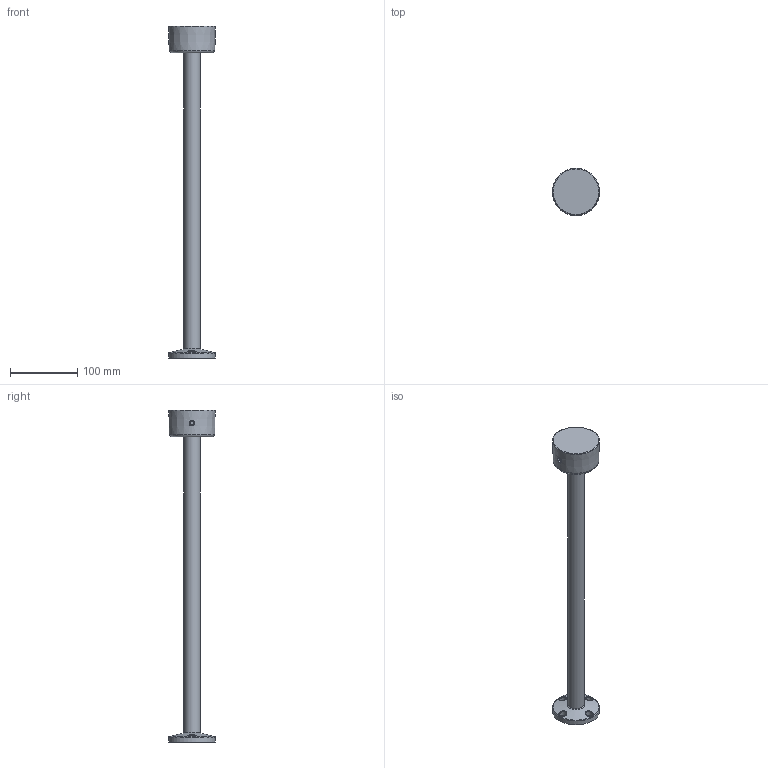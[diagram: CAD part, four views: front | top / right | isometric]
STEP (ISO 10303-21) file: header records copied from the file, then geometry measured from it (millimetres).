
FILE_DESCRIPTION(('STEP AP214'), '1');
FILE_NAME('扻豵鵨455', '', ('UNSPECIFIED'), ('UNSPECIFIED'), 'C3D Converter', 'C3D Toolkit', '');
FILE_SCHEMA(('AUTOMOTIVE_DESIGN { 1 0 10303 214 3 1 1}'));
Length unit declared in the file: millimetre
Bounding box: 70 x 70 x 495 mm (x, y, z)
Volume: 224855.4 mm3; surface area: 98877.6 mm2
Topology: 1 solids, 1 shells, 136 faces, 372 edges, 245 vertices
Faces by surface type: plane 79, cylinder 21, torus 16, cone 15, bspline 5
Full cylindrical faces by diameter (mm): 5 x1, 5.6 x4, 8.5 x1, 10 x4, 20 x1, 25 x1, 70 x1
Entity records: 8123 total; most frequent: CARTESIAN_POINT 3733, ORIENTED_EDGE 688, DIRECTION 622, EDGE_CURVE 344, VERTEX_POINT 242, AXIS2_PLACEMENT_3D 227, EDGE_LOOP 176, LINE 168
